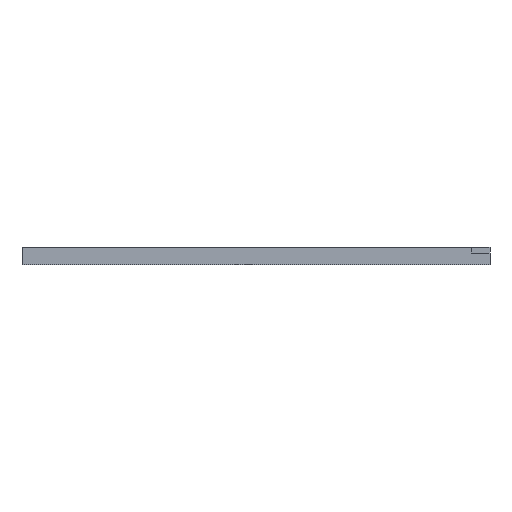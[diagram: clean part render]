
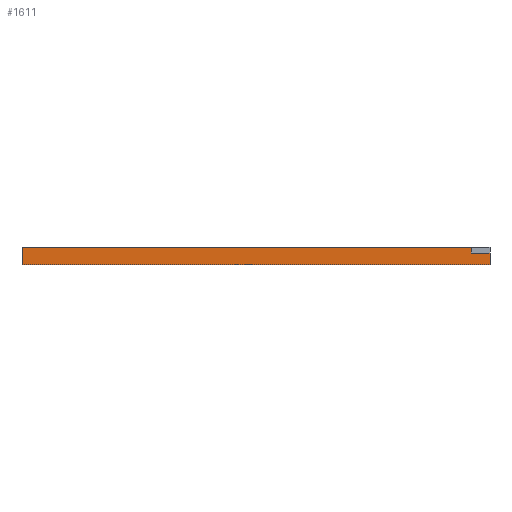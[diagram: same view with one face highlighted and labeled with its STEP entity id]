
A CAD part, front view. The second image highlights one B-rep face of the part: STEP entity #1611.
In plain terms, the highlighted planar face has unit normal (0, -1, 0).
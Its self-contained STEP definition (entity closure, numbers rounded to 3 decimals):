
#42 = EDGE_CURVE ( 'NONE', #571, #370, #1720, .T. ) ;
#103 = VERTEX_POINT ( 'NONE', #640 ) ;
#185 = DIRECTION ( 'NONE',  ( 0., 0., -1. ) ) ;
#215 = EDGE_CURVE ( 'NONE', #370, #103, #562, .T. ) ;
#271 = LINE ( 'NONE', #1845, #1177 ) ;
#300 = VERTEX_POINT ( 'NONE', #742 ) ;
#370 = VERTEX_POINT ( 'NONE', #901 ) ;
#398 = PLANE ( 'NONE',  #1852 ) ;
#403 = EDGE_CURVE ( 'NONE', #300, #539, #1788, .T. ) ;
#443 = ORIENTED_EDGE ( 'NONE', *, *, #1169, .F. ) ;
#514 = FACE_OUTER_BOUND ( 'NONE', #568, .T. ) ;
#539 = VERTEX_POINT ( 'NONE', #1620 ) ;
#558 = DIRECTION ( 'NONE',  ( 0., 0., 1. ) ) ;
#562 = LINE ( 'NONE', #1016, #1504 ) ;
#568 = EDGE_LOOP ( 'NONE', ( #443, #1654, #1306, #924, #1487, #1887 ) ) ;
#571 = VERTEX_POINT ( 'NONE', #1964 ) ;
#616 = CARTESIAN_POINT ( 'NONE',  ( 0., 0., 15. ) ) ;
#628 = LINE ( 'NONE', #904, #1900 ) ;
#640 = CARTESIAN_POINT ( 'NONE',  ( 384., 0., 10. ) ) ;
#645 = VERTEX_POINT ( 'NONE', #1240 ) ;
#742 = CARTESIAN_POINT ( 'NONE',  ( 0., 0., 0. ) ) ;
#752 = DIRECTION ( 'NONE',  ( 0., 0., -1. ) ) ;
#760 = DIRECTION ( 'NONE',  ( 1., 0., 0. ) ) ;
#768 = DIRECTION ( 'NONE',  ( 1., 0., 0. ) ) ;
#776 = LINE ( 'NONE', #1054, #1925 ) ;
#836 = DIRECTION ( 'NONE',  ( 0., 1., 0. ) ) ;
#901 = CARTESIAN_POINT ( 'NONE',  ( 384., 0., 15. ) ) ;
#904 = CARTESIAN_POINT ( 'NONE',  ( 0., 0., 10. ) ) ;
#924 = ORIENTED_EDGE ( 'NONE', *, *, #1201, .T. ) ;
#1016 = CARTESIAN_POINT ( 'NONE',  ( 384., 0., 640.281 ) ) ;
#1054 = CARTESIAN_POINT ( 'NONE',  ( 0., 0., 15. ) ) ;
#1060 = CARTESIAN_POINT ( 'NONE',  ( 0., 0., 0. ) ) ;
#1139 = CARTESIAN_POINT ( 'NONE',  ( 0., 0., 15. ) ) ;
#1169 = EDGE_CURVE ( 'NONE', #103, #645, #628, .T. ) ;
#1177 = VECTOR ( 'NONE', #185, 1000. ) ;
#1201 = EDGE_CURVE ( 'NONE', #571, #300, #776, .T. ) ;
#1225 = VECTOR ( 'NONE', #1526, 1000. ) ;
#1240 = CARTESIAN_POINT ( 'NONE',  ( 400., 0., 10. ) ) ;
#1306 = ORIENTED_EDGE ( 'NONE', *, *, #42, .F. ) ;
#1477 = EDGE_CURVE ( 'NONE', #645, #539, #271, .T. ) ;
#1487 = ORIENTED_EDGE ( 'NONE', *, *, #403, .T. ) ;
#1504 = VECTOR ( 'NONE', #1588, 1000. ) ;
#1526 = DIRECTION ( 'NONE',  ( 1., 0., 0. ) ) ;
#1588 = DIRECTION ( 'NONE',  ( 0., 0., -1. ) ) ;
#1611 = ADVANCED_FACE ( 'NONE', ( #514 ), #398, .F. ) ;
#1620 = CARTESIAN_POINT ( 'NONE',  ( 400., 0., 0. ) ) ;
#1642 = VECTOR ( 'NONE', #760, 1000. ) ;
#1654 = ORIENTED_EDGE ( 'NONE', *, *, #215, .F. ) ;
#1720 = LINE ( 'NONE', #616, #1225 ) ;
#1788 = LINE ( 'NONE', #1060, #1642 ) ;
#1845 = CARTESIAN_POINT ( 'NONE',  ( 400., 0., 15. ) ) ;
#1852 = AXIS2_PLACEMENT_3D ( 'NONE', #1139, #836, #558 ) ;
#1887 = ORIENTED_EDGE ( 'NONE', *, *, #1477, .F. ) ;
#1900 = VECTOR ( 'NONE', #768, 1000. ) ;
#1925 = VECTOR ( 'NONE', #752, 1000. ) ;
#1964 = CARTESIAN_POINT ( 'NONE',  ( 0., 0., 15. ) ) ;
